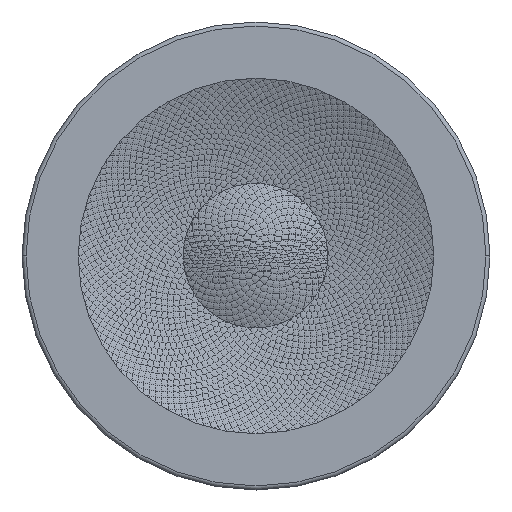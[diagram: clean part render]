
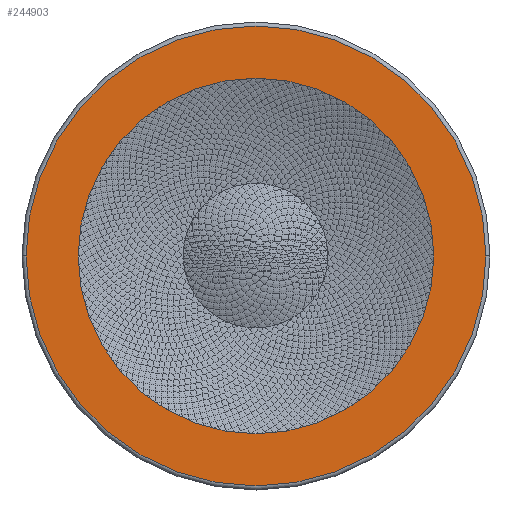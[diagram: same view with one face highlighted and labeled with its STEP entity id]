
A CAD part, top view. The second image highlights one B-rep face of the part: STEP entity #244903.
In plain terms, the highlighted planar face has unit normal (0, 0, 1) as drawn and (0, 1, 0) by its records, which use the part's own axes.
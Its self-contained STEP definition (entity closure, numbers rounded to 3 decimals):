
#244510=CARTESIAN_POINT('',(0.,12.,0.));
#244511=DIRECTION('',(0.,1.,0.));
#244512=DIRECTION('',(1.,0.,0.));
#244513=AXIS2_PLACEMENT_3D('',#244510,#244511,#244512);
#244518=CARTESIAN_POINT('',(0.,12.,0.));
#244519=DIRECTION('',(0.,1.,0.));
#244520=DIRECTION('',(-1.,0.,0.));
#244521=AXIS2_PLACEMENT_3D('',#244518,#244519,#244520);
#244526=CARTESIAN_POINT('',(0.,12.,0.));
#244527=DIRECTION('',(0.,1.,0.));
#244528=DIRECTION('',(1.,0.,0.));
#244529=AXIS2_PLACEMENT_3D('',#244526,#244527,#244528);
#244534=CARTESIAN_POINT('',(0.,12.,0.));
#244535=DIRECTION('',(0.,1.,0.));
#244536=DIRECTION('',(-1.,0.,0.));
#244537=AXIS2_PLACEMENT_3D('',#244534,#244535,#244536);
#244838=CARTESIAN_POINT('',(13.3,12.,0.));
#244839=CARTESIAN_POINT('',(-13.3,12.,0.));
#244840=VERTEX_POINT('',#244838);
#244841=VERTEX_POINT('',#244839);
#244850=CARTESIAN_POINT('',(17.2,12.,0.));
#244851=CARTESIAN_POINT('',(-17.2,12.,0.));
#244852=VERTEX_POINT('',#244850);
#244853=VERTEX_POINT('',#244851);
#244886=CARTESIAN_POINT('',(0.,12.,0.));
#244887=DIRECTION('',(0.,1.,0.));
#244888=DIRECTION('',(1.,0.,0.));
#244889=AXIS2_PLACEMENT_3D('',#244886,#244887,#244888);
#244890=PLANE('',#244889);
#244892=ORIENTED_EDGE('',*,*,#244891,.F.);
#244894=ORIENTED_EDGE('',*,*,#244893,.F.);
#244895=EDGE_LOOP('',(#244892,#244894));
#244896=FACE_OUTER_BOUND('',#244895,.F.);
#244898=ORIENTED_EDGE('',*,*,#244897,.T.);
#244900=ORIENTED_EDGE('',*,*,#244899,.T.);
#244901=EDGE_LOOP('',(#244898,#244900));
#244902=FACE_BOUND('',#244901,.F.);
#244903=ADVANCED_FACE('',(#244896,#244902),#244890,.T.);
#244514=CIRCLE('',#244513,13.3);
#244522=CIRCLE('',#244521,13.3);
#244530=CIRCLE('',#244529,17.2);
#244538=CIRCLE('',#244537,17.2);
#244891=EDGE_CURVE('',#244852,#244853,#244530,.T.);
#244893=EDGE_CURVE('',#244853,#244852,#244538,.T.);
#244897=EDGE_CURVE('',#244840,#244841,#244514,.T.);
#244899=EDGE_CURVE('',#244841,#244840,#244522,.T.);
